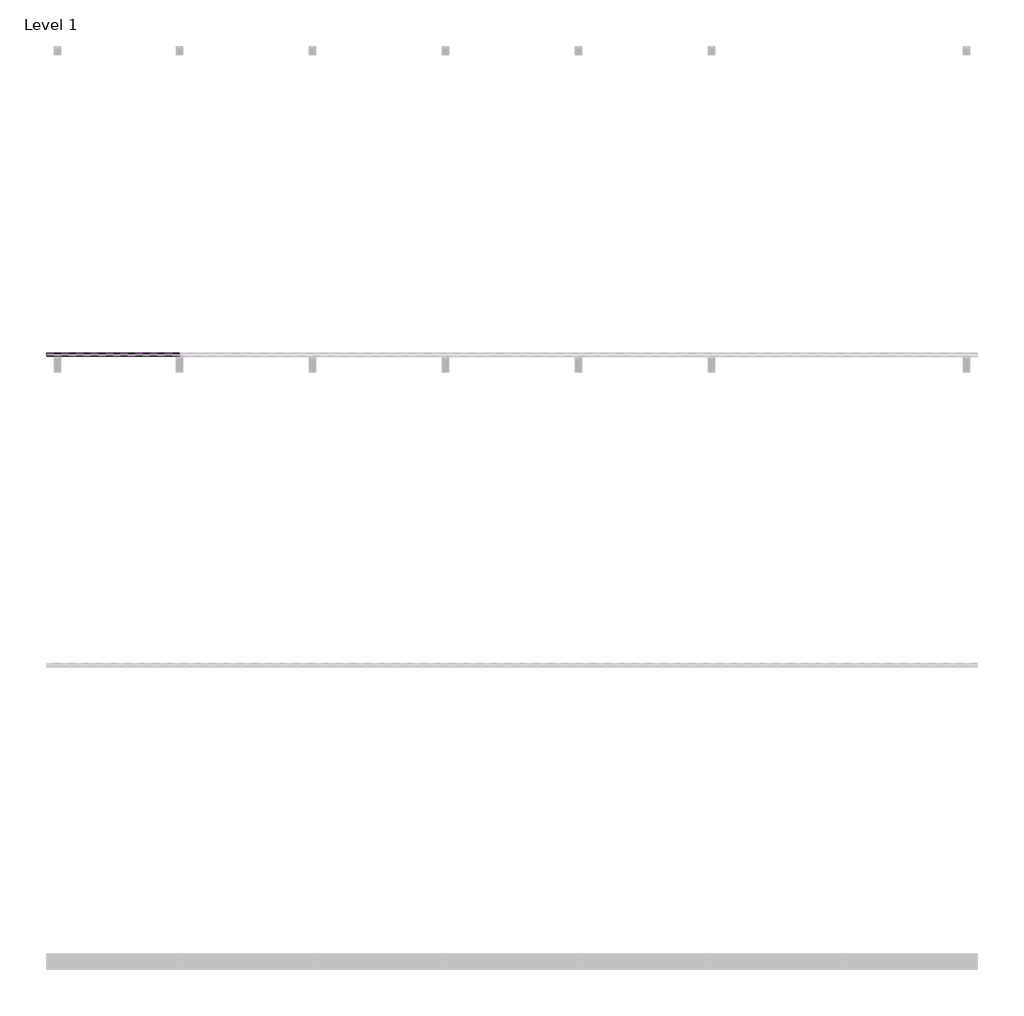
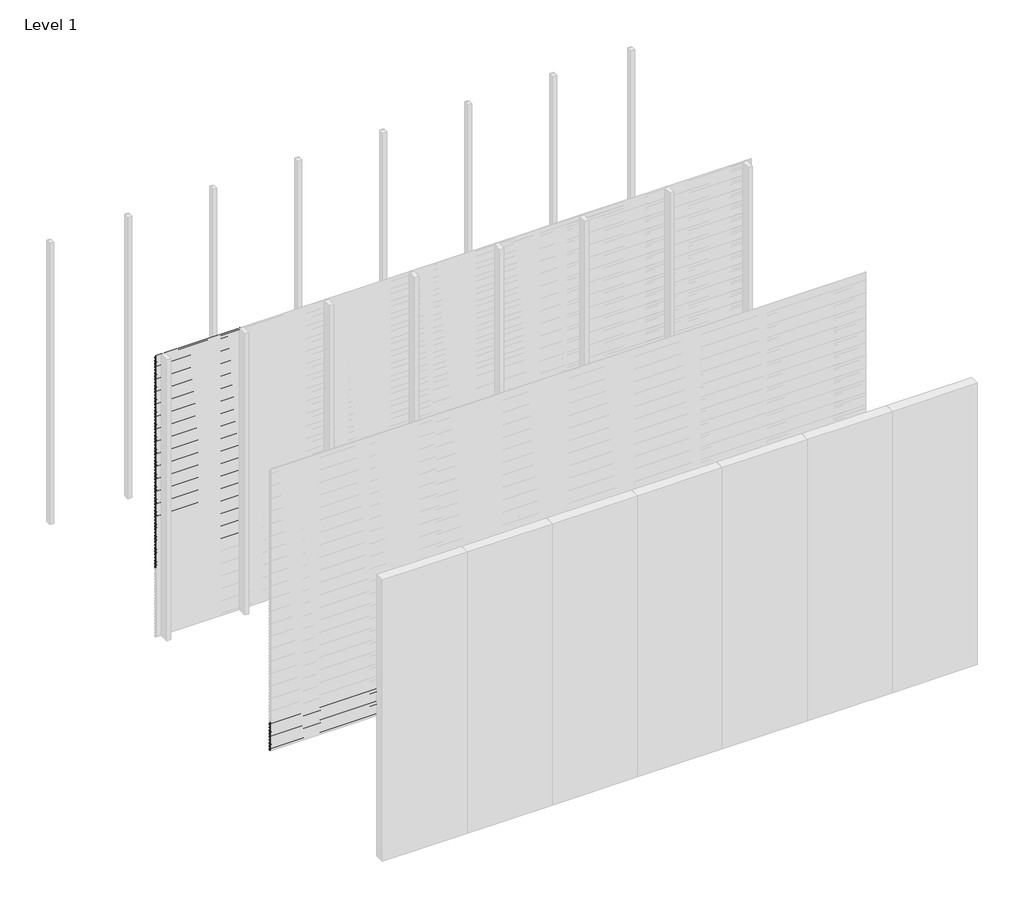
# One storey, part 33 of 96: 77 proxies.
"""IFC4 building model written with IfcOpenShell, lengths in millimetres."""

from ifc_helpers import new_model, si_unit, frame, origin, place, context, project, spatial, polyline, outline, extrude, element, save

model = new_model("IFC4")

# Units and contexts
model_context = context("Model", 3, world=origin())
ifc_project = project(units=[si_unit("LENGTHUNIT", "METRE", prefix="MILLI")], contexts=[model_context])

# Site, building, storey
site = spatial("IfcSite", under=ifc_project)
building = spatial("IfcBuilding", under=site)
storey = spatial("IfcBuildingStorey", under=building, Name="Level 1", Elevation=0.0)

# Proxies
placement = place(None, origin())
element("IfcBuildingElementProxy", 1, Name="Wall Sweeps", at=placement, inside=storey, context=model_context, shape_type="SweptSolid", body=[
    extrude(outline(polyline([(-35977.6, 2971.7655033), (-35977.6, 2957.4779188), (-35982.4114965, 2954.7), (-35982.4114965, 2955.9701706), (-35978.85, 2958.0264016), (-35978.85, 2971.0437382), (-35998.0, 2982.1000799), (-35998.0, 2997.0), (-35996.75, 2997.0), (-35996.75, 2982.8217609), (-35977.6, 2971.7655033)])), frame((0.0, 0.0, 0.0), z_axis=(1.0, 0.0, 0.0), x_axis=(0.0, 1.0, 0.0)), (0.0, 0.0, 1.0), 857.1428571),
])
element("IfcBuildingElementProxy", 2, Name="Wall Sweeps", at=placement, inside=storey, context=model_context, shape_type="SweptSolid", body=[
    extrude(outline(polyline([(-35977.6, 2938.4655033), (-35977.6, 2924.1779188), (-35982.4114965, 2921.4), (-35982.4114965, 2922.6701706), (-35978.85, 2924.7264016), (-35978.85, 2937.7437382), (-35998.0, 2948.8000799), (-35998.0, 2963.7), (-35996.75, 2963.7), (-35996.75, 2949.5217609), (-35977.6, 2938.4655033)])), frame((0.0, 0.0, 0.0), z_axis=(1.0, 0.0, 0.0), x_axis=(0.0, 1.0, 0.0)), (0.0, 0.0, 1.0), 857.1428571),
])
element("IfcBuildingElementProxy", 3, Name="Wall Sweeps", at=placement, inside=storey, context=model_context, shape_type="SweptSolid", body=[
    extrude(outline(polyline([(-35977.6, 2905.1655033), (-35977.6, 2890.8779188), (-35982.4114965, 2888.1), (-35982.4114965, 2889.3701706), (-35978.85, 2891.4264016), (-35978.85, 2904.4437382), (-35998.0, 2915.5000799), (-35998.0, 2930.4), (-35996.75, 2930.4), (-35996.75, 2916.2217609), (-35977.6, 2905.1655033)])), frame((0.0, 0.0, 0.0), z_axis=(1.0, 0.0, 0.0), x_axis=(0.0, 1.0, 0.0)), (0.0, 0.0, 1.0), 857.1428571),
])
element("IfcBuildingElementProxy", 4, Name="Wall Sweeps", at=placement, inside=storey, context=model_context, shape_type="SweptSolid", body=[
    extrude(outline(polyline([(-35977.6, 2871.8655033), (-35977.6, 2857.5779188), (-35982.4114965, 2854.8), (-35982.4114965, 2856.0701706), (-35978.85, 2858.1264016), (-35978.85, 2871.1437382), (-35998.0, 2882.2000799), (-35998.0, 2897.1), (-35996.75, 2897.1), (-35996.75, 2882.9217609), (-35977.6, 2871.8655033)])), frame((0.0, 0.0, 0.0), z_axis=(1.0, 0.0, 0.0), x_axis=(0.0, 1.0, 0.0)), (0.0, 0.0, 1.0), 857.1428571),
])
element("IfcBuildingElementProxy", 5, Name="Wall Sweeps", at=placement, inside=storey, context=model_context, shape_type="SweptSolid", body=[
    extrude(outline(polyline([(-35977.6, 2838.5655033), (-35977.6, 2824.2779188), (-35982.4114965, 2821.5), (-35982.4114965, 2822.7701706), (-35978.85, 2824.8264016), (-35978.85, 2837.8437382), (-35998.0, 2848.9000799), (-35998.0, 2863.8), (-35996.75, 2863.8), (-35996.75, 2849.6217609), (-35977.6, 2838.5655033)])), frame((0.0, 0.0, 0.0), z_axis=(1.0, 0.0, 0.0), x_axis=(0.0, 1.0, 0.0)), (0.0, 0.0, 1.0), 857.1428571),
])
element("IfcBuildingElementProxy", 6, Name="Wall Sweeps", at=placement, inside=storey, context=model_context, shape_type="SweptSolid", body=[
    extrude(outline(polyline([(-35977.6, 2805.2655033), (-35977.6, 2790.9779188), (-35982.4114965, 2788.2), (-35982.4114965, 2789.4701706), (-35978.85, 2791.5264016), (-35978.85, 2804.5437382), (-35998.0, 2815.6000799), (-35998.0, 2830.5), (-35996.75, 2830.5), (-35996.75, 2816.3217609), (-35977.6, 2805.2655033)])), frame((0.0, 0.0, 0.0), z_axis=(1.0, 0.0, 0.0), x_axis=(0.0, 1.0, 0.0)), (0.0, 0.0, 1.0), 857.1428571),
])
element("IfcBuildingElementProxy", 7, Name="Wall Sweeps", at=placement, inside=storey, context=model_context, shape_type="SweptSolid", body=[
    extrude(outline(polyline([(-35977.6, 2771.9655033), (-35977.6, 2757.6779188), (-35982.4114965, 2754.9), (-35982.4114965, 2756.1701706), (-35978.85, 2758.2264016), (-35978.85, 2771.2437382), (-35998.0, 2782.3000799), (-35998.0, 2797.2), (-35996.75, 2797.2), (-35996.75, 2783.0217609), (-35977.6, 2771.9655033)])), frame((0.0, 0.0, 0.0), z_axis=(1.0, 0.0, 0.0), x_axis=(0.0, 1.0, 0.0)), (0.0, 0.0, 1.0), 857.1428571),
])
element("IfcBuildingElementProxy", 8, Name="Wall Sweeps", at=placement, inside=storey, context=model_context, shape_type="SweptSolid", body=[
    extrude(outline(polyline([(-35977.6, 2738.6655033), (-35977.6, 2724.3779188), (-35982.4114965, 2721.6), (-35982.4114965, 2722.8701706), (-35978.85, 2724.9264016), (-35978.85, 2737.9437382), (-35998.0, 2749.0000799), (-35998.0, 2763.9), (-35996.75, 2763.9), (-35996.75, 2749.7217609), (-35977.6, 2738.6655033)])), frame((0.0, 0.0, 0.0), z_axis=(1.0, 0.0, 0.0), x_axis=(0.0, 1.0, 0.0)), (0.0, 0.0, 1.0), 857.1428571),
])
element("IfcBuildingElementProxy", 9, Name="Wall Sweeps", at=placement, inside=storey, context=model_context, shape_type="SweptSolid", body=[
    extrude(outline(polyline([(-35977.6, 2705.3655033), (-35977.6, 2691.0779188), (-35982.4114965, 2688.3), (-35982.4114965, 2689.5701706), (-35978.85, 2691.6264016), (-35978.85, 2704.6437382), (-35998.0, 2715.7000799), (-35998.0, 2730.6), (-35996.75, 2730.6), (-35996.75, 2716.4217609), (-35977.6, 2705.3655033)])), frame((0.0, 0.0, 0.0), z_axis=(1.0, 0.0, 0.0), x_axis=(0.0, 1.0, 0.0)), (0.0, 0.0, 1.0), 857.1428571),
])
element("IfcBuildingElementProxy", 10, Name="Wall Sweeps", at=placement, inside=storey, context=model_context, shape_type="SweptSolid", body=[
    extrude(outline(polyline([(-35977.6, 2672.0655033), (-35977.6, 2657.7779188), (-35982.4114965, 2655.0), (-35982.4114965, 2656.2701706), (-35978.85, 2658.3264016), (-35978.85, 2671.3437382), (-35998.0, 2682.4000799), (-35998.0, 2697.3), (-35996.75, 2697.3), (-35996.75, 2683.1217609), (-35977.6, 2672.0655033)])), frame((0.0, 0.0, 0.0), z_axis=(1.0, 0.0, 0.0), x_axis=(0.0, 1.0, 0.0)), (0.0, 0.0, 1.0), 857.1428571),
])
element("IfcBuildingElementProxy", 11, Name="Wall Sweeps", at=placement, inside=storey, context=model_context, shape_type="SweptSolid", body=[
    extrude(outline(polyline([(-35977.6, 2638.7655033), (-35977.6, 2624.4779188), (-35982.4114965, 2621.7), (-35982.4114965, 2622.9701706), (-35978.85, 2625.0264016), (-35978.85, 2638.0437382), (-35998.0, 2649.1000799), (-35998.0, 2664.0), (-35996.75, 2664.0), (-35996.75, 2649.8217609), (-35977.6, 2638.7655033)])), frame((0.0, 0.0, 0.0), z_axis=(1.0, 0.0, 0.0), x_axis=(0.0, 1.0, 0.0)), (0.0, 0.0, 1.0), 857.1428571),
])
element("IfcBuildingElementProxy", 12, Name="Wall Sweeps", at=placement, inside=storey, context=model_context, shape_type="SweptSolid", body=[
    extrude(outline(polyline([(-35977.6, 2605.4655033), (-35977.6, 2591.1779188), (-35982.4114965, 2588.4), (-35982.4114965, 2589.6701706), (-35978.85, 2591.7264016), (-35978.85, 2604.7437382), (-35998.0, 2615.8000799), (-35998.0, 2630.7), (-35996.75, 2630.7), (-35996.75, 2616.5217609), (-35977.6, 2605.4655033)])), frame((0.0, 0.0, 0.0), z_axis=(1.0, 0.0, 0.0), x_axis=(0.0, 1.0, 0.0)), (0.0, 0.0, 1.0), 857.1428571),
])
element("IfcBuildingElementProxy", 13, Name="Wall Sweeps", at=placement, inside=storey, context=model_context, shape_type="SweptSolid", body=[
    extrude(outline(polyline([(-35977.6, 2572.1655033), (-35977.6, 2557.8779188), (-35982.4114965, 2555.1), (-35982.4114965, 2556.3701706), (-35978.85, 2558.4264016), (-35978.85, 2571.4437382), (-35998.0, 2582.5000799), (-35998.0, 2597.4), (-35996.75, 2597.4), (-35996.75, 2583.2217609), (-35977.6, 2572.1655033)])), frame((0.0, 0.0, 0.0), z_axis=(1.0, 0.0, 0.0), x_axis=(0.0, 1.0, 0.0)), (0.0, 0.0, 1.0), 857.1428571),
])
element("IfcBuildingElementProxy", 14, Name="Wall Sweeps", at=placement, inside=storey, context=model_context, shape_type="SweptSolid", body=[
    extrude(outline(polyline([(-35977.6, 2538.8655033), (-35977.6, 2524.5779188), (-35982.4114965, 2521.8), (-35982.4114965, 2523.0701706), (-35978.85, 2525.1264016), (-35978.85, 2538.1437382), (-35998.0, 2549.2000799), (-35998.0, 2564.1), (-35996.75, 2564.1), (-35996.75, 2549.9217609), (-35977.6, 2538.8655033)])), frame((0.0, 0.0, 0.0), z_axis=(1.0, 0.0, 0.0), x_axis=(0.0, 1.0, 0.0)), (0.0, 0.0, 1.0), 857.1428571),
])
element("IfcBuildingElementProxy", 15, Name="Wall Sweeps", at=placement, inside=storey, context=model_context, shape_type="SweptSolid", body=[
    extrude(outline(polyline([(-35977.6, 2505.5655033), (-35977.6, 2491.2779188), (-35982.4114965, 2488.5), (-35982.4114965, 2489.7701706), (-35978.85, 2491.8264016), (-35978.85, 2504.8437382), (-35998.0, 2515.9000799), (-35998.0, 2530.8), (-35996.75, 2530.8), (-35996.75, 2516.6217609), (-35977.6, 2505.5655033)])), frame((0.0, 0.0, 0.0), z_axis=(1.0, 0.0, 0.0), x_axis=(0.0, 1.0, 0.0)), (0.0, 0.0, 1.0), 857.1428571),
])
element("IfcBuildingElementProxy", 16, Name="Wall Sweeps", at=placement, inside=storey, context=model_context, shape_type="SweptSolid", body=[
    extrude(outline(polyline([(-35977.6, 2472.2655033), (-35977.6, 2457.9779188), (-35982.4114965, 2455.2), (-35982.4114965, 2456.4701706), (-35978.85, 2458.5264016), (-35978.85, 2471.5437382), (-35998.0, 2482.6000799), (-35998.0, 2497.5), (-35996.75, 2497.5), (-35996.75, 2483.3217609), (-35977.6, 2472.2655033)])), frame((0.0, 0.0, 0.0), z_axis=(1.0, 0.0, 0.0), x_axis=(0.0, 1.0, 0.0)), (0.0, 0.0, 1.0), 857.1428571),
])
element("IfcBuildingElementProxy", 17, Name="Wall Sweeps", at=placement, inside=storey, context=model_context, shape_type="SweptSolid", body=[
    extrude(outline(polyline([(-35977.6, 2438.9655033), (-35977.6, 2424.6779188), (-35982.4114965, 2421.9), (-35982.4114965, 2423.1701706), (-35978.85, 2425.2264016), (-35978.85, 2438.2437382), (-35998.0, 2449.3000799), (-35998.0, 2464.2), (-35996.75, 2464.2), (-35996.75, 2450.0217609), (-35977.6, 2438.9655033)])), frame((0.0, 0.0, 0.0), z_axis=(1.0, 0.0, 0.0), x_axis=(0.0, 1.0, 0.0)), (0.0, 0.0, 1.0), 857.1428571),
])
element("IfcBuildingElementProxy", 18, Name="Wall Sweeps", at=placement, inside=storey, context=model_context, shape_type="SweptSolid", body=[
    extrude(outline(polyline([(-35977.6, 2405.6655033), (-35977.6, 2391.3779188), (-35982.4114965, 2388.6), (-35982.4114965, 2389.8701706), (-35978.85, 2391.9264016), (-35978.85, 2404.9437382), (-35998.0, 2416.0000799), (-35998.0, 2430.9), (-35996.75, 2430.9), (-35996.75, 2416.7217609), (-35977.6, 2405.6655033)])), frame((0.0, 0.0, 0.0), z_axis=(1.0, 0.0, 0.0), x_axis=(0.0, 1.0, 0.0)), (0.0, 0.0, 1.0), 857.1428571),
])
element("IfcBuildingElementProxy", 19, Name="Wall Sweeps", at=placement, inside=storey, context=model_context, shape_type="SweptSolid", body=[
    extrude(outline(polyline([(-35977.6, 2372.3655033), (-35977.6, 2358.0779188), (-35982.4114965, 2355.3), (-35982.4114965, 2356.5701706), (-35978.85, 2358.6264016), (-35978.85, 2371.6437382), (-35998.0, 2382.7000799), (-35998.0, 2397.6), (-35996.75, 2397.6), (-35996.75, 2383.4217609), (-35977.6, 2372.3655033)])), frame((0.0, 0.0, 0.0), z_axis=(1.0, 0.0, 0.0), x_axis=(0.0, 1.0, 0.0)), (0.0, 0.0, 1.0), 857.1428571),
])
element("IfcBuildingElementProxy", 20, Name="Wall Sweeps", at=placement, inside=storey, context=model_context, shape_type="SweptSolid", body=[
    extrude(outline(polyline([(-35977.6, 2339.0655033), (-35977.6, 2324.7779188), (-35982.4114965, 2322.0), (-35982.4114965, 2323.2701706), (-35978.85, 2325.3264016), (-35978.85, 2338.3437382), (-35998.0, 2349.4000799), (-35998.0, 2364.3), (-35996.75, 2364.3), (-35996.75, 2350.1217609), (-35977.6, 2339.0655033)])), frame((0.0, 0.0, 0.0), z_axis=(1.0, 0.0, 0.0), x_axis=(0.0, 1.0, 0.0)), (0.0, 0.0, 1.0), 857.1428571),
])
element("IfcBuildingElementProxy", 21, Name="Wall Sweeps", at=placement, inside=storey, context=model_context, shape_type="SweptSolid", body=[
    extrude(outline(polyline([(-35977.6, 2305.7655033), (-35977.6, 2291.4779188), (-35982.4114965, 2288.7), (-35982.4114965, 2289.9701706), (-35978.85, 2292.0264016), (-35978.85, 2305.0437382), (-35998.0, 2316.1000799), (-35998.0, 2331.0), (-35996.75, 2331.0), (-35996.75, 2316.8217609), (-35977.6, 2305.7655033)])), frame((0.0, 0.0, 0.0), z_axis=(1.0, 0.0, 0.0), x_axis=(0.0, 1.0, 0.0)), (0.0, 0.0, 1.0), 857.1428571),
])
element("IfcBuildingElementProxy", 22, Name="Wall Sweeps", at=placement, inside=storey, context=model_context, shape_type="SweptSolid", body=[
    extrude(outline(polyline([(-35977.6, 2272.4655033), (-35977.6, 2258.1779188), (-35982.4114965, 2255.4), (-35982.4114965, 2256.6701706), (-35978.85, 2258.7264016), (-35978.85, 2271.7437382), (-35998.0, 2282.8000799), (-35998.0, 2297.7), (-35996.75, 2297.7), (-35996.75, 2283.5217609), (-35977.6, 2272.4655033)])), frame((0.0, 0.0, 0.0), z_axis=(1.0, 0.0, 0.0), x_axis=(0.0, 1.0, 0.0)), (0.0, 0.0, 1.0), 857.1428571),
])
element("IfcBuildingElementProxy", 23, Name="Wall Sweeps", at=placement, inside=storey, context=model_context, shape_type="SweptSolid", body=[
    extrude(outline(polyline([(-35977.6, 2239.1655033), (-35977.6, 2224.8779188), (-35982.4114965, 2222.1), (-35982.4114965, 2223.3701706), (-35978.85, 2225.4264016), (-35978.85, 2238.4437382), (-35998.0, 2249.5000799), (-35998.0, 2264.4), (-35996.75, 2264.4), (-35996.75, 2250.2217609), (-35977.6, 2239.1655033)])), frame((0.0, 0.0, 0.0), z_axis=(1.0, 0.0, 0.0), x_axis=(0.0, 1.0, 0.0)), (0.0, 0.0, 1.0), 857.1428571),
])
element("IfcBuildingElementProxy", 24, Name="Wall Sweeps", at=placement, inside=storey, context=model_context, shape_type="SweptSolid", body=[
    extrude(outline(polyline([(-35977.6, 2205.8655033), (-35977.6, 2191.5779188), (-35982.4114965, 2188.8), (-35982.4114965, 2190.0701706), (-35978.85, 2192.1264016), (-35978.85, 2205.1437382), (-35998.0, 2216.2000799), (-35998.0, 2231.1), (-35996.75, 2231.1), (-35996.75, 2216.9217609), (-35977.6, 2205.8655033)])), frame((0.0, 0.0, 0.0), z_axis=(1.0, 0.0, 0.0), x_axis=(0.0, 1.0, 0.0)), (0.0, 0.0, 1.0), 857.1428571),
])
element("IfcBuildingElementProxy", 25, Name="Wall Sweeps", at=placement, inside=storey, context=model_context, shape_type="SweptSolid", body=[
    extrude(outline(polyline([(-35977.6, 2172.5655033), (-35977.6, 2158.2779188), (-35982.4114965, 2155.5), (-35982.4114965, 2156.7701706), (-35978.85, 2158.8264016), (-35978.85, 2171.8437382), (-35998.0, 2182.9000799), (-35998.0, 2197.8), (-35996.75, 2197.8), (-35996.75, 2183.6217609), (-35977.6, 2172.5655033)])), frame((0.0, 0.0, 0.0), z_axis=(1.0, 0.0, 0.0), x_axis=(0.0, 1.0, 0.0)), (0.0, 0.0, 1.0), 857.1428571),
])
element("IfcBuildingElementProxy", 26, Name="Wall Sweeps", at=placement, inside=storey, context=model_context, shape_type="SweptSolid", body=[
    extrude(outline(polyline([(-35977.6, 2139.2655033), (-35977.6, 2124.9779188), (-35982.4114965, 2122.2), (-35982.4114965, 2123.4701706), (-35978.85, 2125.5264016), (-35978.85, 2138.5437382), (-35998.0, 2149.6000799), (-35998.0, 2164.5), (-35996.75, 2164.5), (-35996.75, 2150.3217609), (-35977.6, 2139.2655033)])), frame((0.0, 0.0, 0.0), z_axis=(1.0, 0.0, 0.0), x_axis=(0.0, 1.0, 0.0)), (0.0, 0.0, 1.0), 857.1428571),
])
element("IfcBuildingElementProxy", 27, Name="Wall Sweeps", at=placement, inside=storey, context=model_context, shape_type="SweptSolid", body=[
    extrude(outline(polyline([(-35977.6, 2105.9655033), (-35977.6, 2091.6779188), (-35982.4114965, 2088.9), (-35982.4114965, 2090.1701706), (-35978.85, 2092.2264016), (-35978.85, 2105.2437382), (-35998.0, 2116.3000799), (-35998.0, 2131.2), (-35996.75, 2131.2), (-35996.75, 2117.0217609), (-35977.6, 2105.9655033)])), frame((0.0, 0.0, 0.0), z_axis=(1.0, 0.0, 0.0), x_axis=(0.0, 1.0, 0.0)), (0.0, 0.0, 1.0), 857.1428571),
])
element("IfcBuildingElementProxy", 28, Name="Wall Sweeps", at=placement, inside=storey, context=model_context, shape_type="SweptSolid", body=[
    extrude(outline(polyline([(-35977.6, 2072.6655033), (-35977.6, 2058.3779188), (-35982.4114965, 2055.6), (-35982.4114965, 2056.8701706), (-35978.85, 2058.9264016), (-35978.85, 2071.9437382), (-35998.0, 2083.0000799), (-35998.0, 2097.9), (-35996.75, 2097.9), (-35996.75, 2083.7217609), (-35977.6, 2072.6655033)])), frame((0.0, 0.0, 0.0), z_axis=(1.0, 0.0, 0.0), x_axis=(0.0, 1.0, 0.0)), (0.0, 0.0, 1.0), 857.1428571),
])
element("IfcBuildingElementProxy", 29, Name="Wall Sweeps", at=placement, inside=storey, context=model_context, shape_type="SweptSolid", body=[
    extrude(outline(polyline([(-35977.6, 2039.3655033), (-35977.6, 2025.0779188), (-35982.4114965, 2022.3), (-35982.4114965, 2023.5701706), (-35978.85, 2025.6264016), (-35978.85, 2038.6437382), (-35998.0, 2049.7000799), (-35998.0, 2064.6), (-35996.75, 2064.6), (-35996.75, 2050.4217609), (-35977.6, 2039.3655033)])), frame((0.0, 0.0, 0.0), z_axis=(1.0, 0.0, 0.0), x_axis=(0.0, 1.0, 0.0)), (0.0, 0.0, 1.0), 857.1428571),
])
element("IfcBuildingElementProxy", 30, Name="Wall Sweeps", at=placement, inside=storey, context=model_context, shape_type="SweptSolid", body=[
    extrude(outline(polyline([(-35977.6, 2006.0655033), (-35977.6, 1991.7779188), (-35982.4114965, 1989.0), (-35982.4114965, 1990.2701706), (-35978.85, 1992.3264016), (-35978.85, 2005.3437382), (-35998.0, 2016.4000799), (-35998.0, 2031.3), (-35996.75, 2031.3), (-35996.75, 2017.1217609), (-35977.6, 2006.0655033)])), frame((0.0, 0.0, 0.0), z_axis=(1.0, 0.0, 0.0), x_axis=(0.0, 1.0, 0.0)), (0.0, 0.0, 1.0), 857.1428571),
])
element("IfcBuildingElementProxy", 31, Name="Wall Sweeps", at=placement, inside=storey, context=model_context, shape_type="SweptSolid", body=[
    extrude(outline(polyline([(-35977.6, 1972.7655033), (-35977.6, 1958.4779188), (-35982.4114965, 1955.7), (-35982.4114965, 1956.9701706), (-35978.85, 1959.0264016), (-35978.85, 1972.0437382), (-35998.0, 1983.1000799), (-35998.0, 1998.0), (-35996.75, 1998.0), (-35996.75, 1983.8217609), (-35977.6, 1972.7655033)])), frame((0.0, 0.0, 0.0), z_axis=(1.0, 0.0, 0.0), x_axis=(0.0, 1.0, 0.0)), (0.0, 0.0, 1.0), 857.1428571),
])
element("IfcBuildingElementProxy", 32, Name="Wall Sweeps", at=placement, inside=storey, context=model_context, shape_type="SweptSolid", body=[
    extrude(outline(polyline([(-35977.6, 1939.4655033), (-35977.6, 1925.1779188), (-35982.4114965, 1922.4), (-35982.4114965, 1923.6701706), (-35978.85, 1925.7264016), (-35978.85, 1938.7437382), (-35998.0, 1949.8000799), (-35998.0, 1964.7), (-35996.75, 1964.7), (-35996.75, 1950.5217609), (-35977.6, 1939.4655033)])), frame((0.0, 0.0, 0.0), z_axis=(1.0, 0.0, 0.0), x_axis=(0.0, 1.0, 0.0)), (0.0, 0.0, 1.0), 857.1428571),
])
element("IfcBuildingElementProxy", 33, Name="Wall Sweeps", at=placement, inside=storey, context=model_context, shape_type="SweptSolid", body=[
    extrude(outline(polyline([(-35977.6, 1906.1655033), (-35977.6, 1891.8779188), (-35982.4114965, 1889.1), (-35982.4114965, 1890.3701706), (-35978.85, 1892.4264016), (-35978.85, 1905.4437382), (-35998.0, 1916.5000799), (-35998.0, 1931.4), (-35996.75, 1931.4), (-35996.75, 1917.2217609), (-35977.6, 1906.1655033)])), frame((0.0, 0.0, 0.0), z_axis=(1.0, 0.0, 0.0), x_axis=(0.0, 1.0, 0.0)), (0.0, 0.0, 1.0), 857.1428571),
])
element("IfcBuildingElementProxy", 34, Name="Wall Sweeps", at=placement, inside=storey, context=model_context, shape_type="SweptSolid", body=[
    extrude(outline(polyline([(-35977.6, 1872.8655033), (-35977.6, 1858.5779188), (-35982.4114965, 1855.8), (-35982.4114965, 1857.0701706), (-35978.85, 1859.1264016), (-35978.85, 1872.1437382), (-35998.0, 1883.2000799), (-35998.0, 1898.1), (-35996.75, 1898.1), (-35996.75, 1883.9217609), (-35977.6, 1872.8655033)])), frame((0.0, 0.0, 0.0), z_axis=(1.0, 0.0, 0.0), x_axis=(0.0, 1.0, 0.0)), (0.0, 0.0, 1.0), 857.1428571),
])
element("IfcBuildingElementProxy", 35, Name="Wall Sweeps", at=placement, inside=storey, context=model_context, shape_type="SweptSolid", body=[
    extrude(outline(polyline([(-35977.6, 1839.5655033), (-35977.6, 1825.2779188), (-35982.4114965, 1822.5), (-35982.4114965, 1823.7701706), (-35978.85, 1825.8264016), (-35978.85, 1838.8437382), (-35998.0, 1849.9000799), (-35998.0, 1864.8), (-35996.75, 1864.8), (-35996.75, 1850.6217609), (-35977.6, 1839.5655033)])), frame((0.0, 0.0, 0.0), z_axis=(1.0, 0.0, 0.0), x_axis=(0.0, 1.0, 0.0)), (0.0, 0.0, 1.0), 857.1428571),
])
element("IfcBuildingElementProxy", 36, Name="Wall Sweeps", at=placement, inside=storey, context=model_context, shape_type="SweptSolid", body=[
    extrude(outline(polyline([(-35977.6, 1806.2655033), (-35977.6, 1791.9779188), (-35982.4114965, 1789.2), (-35982.4114965, 1790.4701706), (-35978.85, 1792.5264016), (-35978.85, 1805.5437382), (-35998.0, 1816.6000799), (-35998.0, 1831.5), (-35996.75, 1831.5), (-35996.75, 1817.3217609), (-35977.6, 1806.2655033)])), frame((0.0, 0.0, 0.0), z_axis=(1.0, 0.0, 0.0), x_axis=(0.0, 1.0, 0.0)), (0.0, 0.0, 1.0), 857.1428571),
])
element("IfcBuildingElementProxy", 37, Name="Wall Sweeps", at=placement, inside=storey, context=model_context, shape_type="SweptSolid", body=[
    extrude(outline(polyline([(-35977.6, 1772.9655033), (-35977.6, 1758.6779188), (-35982.4114965, 1755.9), (-35982.4114965, 1757.1701706), (-35978.85, 1759.2264016), (-35978.85, 1772.2437382), (-35998.0, 1783.3000799), (-35998.0, 1798.2), (-35996.75, 1798.2), (-35996.75, 1784.0217609), (-35977.6, 1772.9655033)])), frame((0.0, 0.0, 0.0), z_axis=(1.0, 0.0, 0.0), x_axis=(0.0, 1.0, 0.0)), (0.0, 0.0, 1.0), 857.1428571),
])
element("IfcBuildingElementProxy", 38, Name="Wall Sweeps", at=placement, inside=storey, context=model_context, shape_type="SweptSolid", body=[
    extrude(outline(polyline([(-35977.6, 1739.6655033), (-35977.6, 1725.3779188), (-35982.4114965, 1722.6), (-35982.4114965, 1723.8701706), (-35978.85, 1725.9264016), (-35978.85, 1738.9437382), (-35998.0, 1750.0000799), (-35998.0, 1764.9), (-35996.75, 1764.9), (-35996.75, 1750.7217609), (-35977.6, 1739.6655033)])), frame((0.0, 0.0, 0.0), z_axis=(1.0, 0.0, 0.0), x_axis=(0.0, 1.0, 0.0)), (0.0, 0.0, 1.0), 857.1428571),
])
element("IfcBuildingElementProxy", 39, Name="Wall Sweeps", at=placement, inside=storey, context=model_context, shape_type="SweptSolid", body=[
    extrude(outline(polyline([(-35977.6, 1706.3655033), (-35977.6, 1692.0779188), (-35982.4114965, 1689.3), (-35982.4114965, 1690.5701706), (-35978.85, 1692.6264016), (-35978.85, 1705.6437382), (-35998.0, 1716.7000799), (-35998.0, 1731.6), (-35996.75, 1731.6), (-35996.75, 1717.4217609), (-35977.6, 1706.3655033)])), frame((0.0, 0.0, 0.0), z_axis=(1.0, 0.0, 0.0), x_axis=(0.0, 1.0, 0.0)), (0.0, 0.0, 1.0), 857.1428571),
])
element("IfcBuildingElementProxy", 40, Name="Wall Sweeps", at=placement, inside=storey, context=model_context, shape_type="SweptSolid", body=[
    extrude(outline(polyline([(-35977.6, 1673.0655033), (-35977.6, 1658.7779188), (-35982.4114965, 1656.0), (-35982.4114965, 1657.2701706), (-35978.85, 1659.3264016), (-35978.85, 1672.3437382), (-35998.0, 1683.4000799), (-35998.0, 1698.3), (-35996.75, 1698.3), (-35996.75, 1684.1217609), (-35977.6, 1673.0655033)])), frame((0.0, 0.0, 0.0), z_axis=(1.0, 0.0, 0.0), x_axis=(0.0, 1.0, 0.0)), (0.0, 0.0, 1.0), 857.1428571),
])
element("IfcBuildingElementProxy", 41, Name="Wall Sweeps", at=placement, inside=storey, context=model_context, shape_type="SweptSolid", body=[
    extrude(outline(polyline([(-35977.6, 1639.7655033), (-35977.6, 1625.4779188), (-35982.4114965, 1622.7), (-35982.4114965, 1623.9701706), (-35978.85, 1626.0264016), (-35978.85, 1639.0437382), (-35998.0, 1650.1000799), (-35998.0, 1665.0), (-35996.75, 1665.0), (-35996.75, 1650.8217609), (-35977.6, 1639.7655033)])), frame((0.0, 0.0, 0.0), z_axis=(1.0, 0.0, 0.0), x_axis=(0.0, 1.0, 0.0)), (0.0, 0.0, 1.0), 857.1428571),
])
element("IfcBuildingElementProxy", 42, Name="Wall Sweeps", at=placement, inside=storey, context=model_context, shape_type="SweptSolid", body=[
    extrude(outline(polyline([(-35977.6, 1606.4655033), (-35977.6, 1592.1779188), (-35982.4114965, 1589.4), (-35982.4114965, 1590.6701706), (-35978.85, 1592.7264016), (-35978.85, 1605.7437382), (-35998.0, 1616.8000799), (-35998.0, 1631.7), (-35996.75, 1631.7), (-35996.75, 1617.5217609), (-35977.6, 1606.4655033)])), frame((0.0, 0.0, 0.0), z_axis=(1.0, 0.0, 0.0), x_axis=(0.0, 1.0, 0.0)), (0.0, 0.0, 1.0), 857.1428571),
])
element("IfcBuildingElementProxy", 43, Name="Wall Sweeps", at=placement, inside=storey, context=model_context, shape_type="SweptSolid", body=[
    extrude(outline(polyline([(-35977.6, 1573.1655033), (-35977.6, 1558.8779188), (-35982.4114965, 1556.1), (-35982.4114965, 1557.3701706), (-35978.85, 1559.4264016), (-35978.85, 1572.4437382), (-35998.0, 1583.5000799), (-35998.0, 1598.4), (-35996.75, 1598.4), (-35996.75, 1584.2217609), (-35977.6, 1573.1655033)])), frame((0.0, 0.0, 0.0), z_axis=(1.0, 0.0, 0.0), x_axis=(0.0, 1.0, 0.0)), (0.0, 0.0, 1.0), 857.1428571),
])
element("IfcBuildingElementProxy", 44, Name="Wall Sweeps", at=placement, inside=storey, context=model_context, shape_type="SweptSolid", body=[
    extrude(outline(polyline([(-35977.6, 1539.8655033), (-35977.6, 1525.5779188), (-35982.4114965, 1522.8), (-35982.4114965, 1524.0701706), (-35978.85, 1526.1264016), (-35978.85, 1539.1437382), (-35998.0, 1550.2000799), (-35998.0, 1565.1), (-35996.75, 1565.1), (-35996.75, 1550.9217609), (-35977.6, 1539.8655033)])), frame((0.0, 0.0, 0.0), z_axis=(1.0, 0.0, 0.0), x_axis=(0.0, 1.0, 0.0)), (0.0, 0.0, 1.0), 857.1428571),
])
element("IfcBuildingElementProxy", 45, Name="Wall Sweeps", at=placement, inside=storey, context=model_context, shape_type="SweptSolid", body=[
    extrude(outline(polyline([(-35977.6, 1506.5655033), (-35977.6, 1492.2779188), (-35982.4114965, 1489.5), (-35982.4114965, 1490.7701706), (-35978.85, 1492.8264016), (-35978.85, 1505.8437382), (-35998.0, 1516.9000799), (-35998.0, 1531.8), (-35996.75, 1531.8), (-35996.75, 1517.6217609), (-35977.6, 1506.5655033)])), frame((0.0, 0.0, 0.0), z_axis=(1.0, 0.0, 0.0), x_axis=(0.0, 1.0, 0.0)), (0.0, 0.0, 1.0), 857.1428571),
])
element("IfcBuildingElementProxy", 46, Name="Wall Sweeps", at=placement, inside=storey, context=model_context, shape_type="SweptSolid", body=[
    extrude(outline(polyline([(-35977.6, 1473.2655033), (-35977.6, 1458.9779188), (-35982.4114965, 1456.2), (-35982.4114965, 1457.4701706), (-35978.85, 1459.5264016), (-35978.85, 1472.5437382), (-35998.0, 1483.6000799), (-35998.0, 1498.5), (-35996.75, 1498.5), (-35996.75, 1484.3217609), (-35977.6, 1473.2655033)])), frame((0.0, 0.0, 0.0), z_axis=(1.0, 0.0, 0.0), x_axis=(0.0, 1.0, 0.0)), (0.0, 0.0, 1.0), 857.1428571),
])
element("IfcBuildingElementProxy", 47, Name="Wall Sweeps", at=placement, inside=storey, context=model_context, shape_type="SweptSolid", body=[
    extrude(outline(polyline([(-35977.6, 1439.9655033), (-35977.6, 1425.6779188), (-35982.4114965, 1422.9), (-35982.4114965, 1424.1701706), (-35978.85, 1426.2264016), (-35978.85, 1439.2437382), (-35998.0, 1450.3000799), (-35998.0, 1465.2), (-35996.75, 1465.2), (-35996.75, 1451.0217609), (-35977.6, 1439.9655033)])), frame((0.0, 0.0, 0.0), z_axis=(1.0, 0.0, 0.0), x_axis=(0.0, 1.0, 0.0)), (0.0, 0.0, 1.0), 857.1428571),
])
element("IfcBuildingElementProxy", 48, Name="Wall Sweeps", at=placement, inside=storey, context=model_context, shape_type="SweptSolid", body=[
    extrude(outline(polyline([(-35977.6, 1406.6655033), (-35977.6, 1392.3779188), (-35982.4114965, 1389.6), (-35982.4114965, 1390.8701706), (-35978.85, 1392.9264016), (-35978.85, 1405.9437382), (-35998.0, 1417.0000799), (-35998.0, 1431.9), (-35996.75, 1431.9), (-35996.75, 1417.7217609), (-35977.6, 1406.6655033)])), frame((0.0, 0.0, 0.0), z_axis=(1.0, 0.0, 0.0), x_axis=(0.0, 1.0, 0.0)), (0.0, 0.0, 1.0), 857.1428571),
])
element("IfcBuildingElementProxy", 49, Name="Wall Sweeps", at=placement, inside=storey, context=model_context, shape_type="SweptSolid", body=[
    extrude(outline(polyline([(-35977.6, 1373.3655033), (-35977.6, 1359.0779188), (-35982.4114965, 1356.3), (-35982.4114965, 1357.5701706), (-35978.85, 1359.6264016), (-35978.85, 1372.6437382), (-35998.0, 1383.7000799), (-35998.0, 1398.6), (-35996.75, 1398.6), (-35996.75, 1384.4217609), (-35977.6, 1373.3655033)])), frame((0.0, 0.0, 0.0), z_axis=(1.0, 0.0, 0.0), x_axis=(0.0, 1.0, 0.0)), (0.0, 0.0, 1.0), 857.1428571),
])
element("IfcBuildingElementProxy", 50, Name="Wall Sweeps", at=placement, inside=storey, context=model_context, shape_type="SweptSolid", body=[
    extrude(outline(polyline([(-35977.6, 1340.0655033), (-35977.6, 1325.7779188), (-35982.4114965, 1323.0), (-35982.4114965, 1324.2701706), (-35978.85, 1326.3264016), (-35978.85, 1339.3437382), (-35998.0, 1350.4000799), (-35998.0, 1365.3), (-35996.75, 1365.3), (-35996.75, 1351.1217609), (-35977.6, 1340.0655033)])), frame((0.0, 0.0, 0.0), z_axis=(1.0, 0.0, 0.0), x_axis=(0.0, 1.0, 0.0)), (0.0, 0.0, 1.0), 857.1428571),
])
element("IfcBuildingElementProxy", 51, Name="Wall Sweeps", at=placement, inside=storey, context=model_context, shape_type="SweptSolid", body=[
    extrude(outline(polyline([(-35977.6, 1306.7655033), (-35977.6, 1292.4779188), (-35982.4114965, 1289.7), (-35982.4114965, 1290.9701706), (-35978.85, 1293.0264016), (-35978.85, 1306.0437382), (-35998.0, 1317.1000799), (-35998.0, 1332.0), (-35996.75, 1332.0), (-35996.75, 1317.8217609), (-35977.6, 1306.7655033)])), frame((0.0, 0.0, 0.0), z_axis=(1.0, 0.0, 0.0), x_axis=(0.0, 1.0, 0.0)), (0.0, 0.0, 1.0), 857.1428571),
])
element("IfcBuildingElementProxy", 52, Name="Wall Sweeps", at=placement, inside=storey, context=model_context, shape_type="SweptSolid", body=[
    extrude(outline(polyline([(-35977.6, 1273.4655033), (-35977.6, 1259.1779188), (-35982.4114965, 1256.4), (-35982.4114965, 1257.6701706), (-35978.85, 1259.7264016), (-35978.85, 1272.7437382), (-35998.0, 1283.8000799), (-35998.0, 1298.7), (-35996.75, 1298.7), (-35996.75, 1284.5217609), (-35977.6, 1273.4655033)])), frame((0.0, 0.0, 0.0), z_axis=(1.0, 0.0, 0.0), x_axis=(0.0, 1.0, 0.0)), (0.0, 0.0, 1.0), 857.1428571),
])
element("IfcBuildingElementProxy", 53, Name="Wall Sweeps", at=placement, inside=storey, context=model_context, shape_type="SweptSolid", body=[
    extrude(outline(polyline([(-35977.6, 1240.1655033), (-35977.6, 1225.8779188), (-35982.4114965, 1223.1), (-35982.4114965, 1224.3701706), (-35978.85, 1226.4264016), (-35978.85, 1239.4437382), (-35998.0, 1250.5000799), (-35998.0, 1265.4), (-35996.75, 1265.4), (-35996.75, 1251.2217609), (-35977.6, 1240.1655033)])), frame((0.0, 0.0, 0.0), z_axis=(1.0, 0.0, 0.0), x_axis=(0.0, 1.0, 0.0)), (0.0, 0.0, 1.0), 857.1428571),
])
element("IfcBuildingElementProxy", 54, Name="Wall Sweeps", at=placement, inside=storey, context=model_context, shape_type="SweptSolid", body=[
    extrude(outline(polyline([(-35977.6, 1206.8655033), (-35977.6, 1192.5779188), (-35982.4114965, 1189.8), (-35982.4114965, 1191.0701706), (-35978.85, 1193.1264016), (-35978.85, 1206.1437382), (-35998.0, 1217.2000799), (-35998.0, 1232.1), (-35996.75, 1232.1), (-35996.75, 1217.9217609), (-35977.6, 1206.8655033)])), frame((0.0, 0.0, 0.0), z_axis=(1.0, 0.0, 0.0), x_axis=(0.0, 1.0, 0.0)), (0.0, 0.0, 1.0), 857.1428571),
])
element("IfcBuildingElementProxy", 55, Name="Wall Sweeps", at=placement, inside=storey, context=model_context, shape_type="SweptSolid", body=[
    extrude(outline(polyline([(-35977.6, 1173.5655033), (-35977.6, 1159.2779188), (-35982.4114965, 1156.5), (-35982.4114965, 1157.7701706), (-35978.85, 1159.8264016), (-35978.85, 1172.8437382), (-35998.0, 1183.9000799), (-35998.0, 1198.8), (-35996.75, 1198.8), (-35996.75, 1184.6217609), (-35977.6, 1173.5655033)])), frame((0.0, 0.0, 0.0), z_axis=(1.0, 0.0, 0.0), x_axis=(0.0, 1.0, 0.0)), (0.0, 0.0, 1.0), 857.1428571),
])
element("IfcBuildingElementProxy", 56, Name="Wall Sweeps", at=placement, inside=storey, context=model_context, shape_type="SweptSolid", body=[
    extrude(outline(polyline([(-35977.6, 1140.2655033), (-35977.6, 1125.9779188), (-35982.4114965, 1123.2), (-35982.4114965, 1124.4701706), (-35978.85, 1126.5264016), (-35978.85, 1139.5437382), (-35998.0, 1150.6000799), (-35998.0, 1165.5), (-35996.75, 1165.5), (-35996.75, 1151.3217609), (-35977.6, 1140.2655033)])), frame((0.0, 0.0, 0.0), z_axis=(1.0, 0.0, 0.0), x_axis=(0.0, 1.0, 0.0)), (0.0, 0.0, 1.0), 857.1428571),
])
element("IfcBuildingElementProxy", 57, Name="Wall Sweeps", at=placement, inside=storey, context=model_context, shape_type="SweptSolid", body=[
    extrude(outline(polyline([(-35977.6, 1106.9655033), (-35977.6, 1092.6779188), (-35982.4114965, 1089.9), (-35982.4114965, 1091.1701706), (-35978.85, 1093.2264016), (-35978.85, 1106.2437382), (-35998.0, 1117.3000799), (-35998.0, 1132.2), (-35996.75, 1132.2), (-35996.75, 1118.0217609), (-35977.6, 1106.9655033)])), frame((0.0, 0.0, 0.0), z_axis=(1.0, 0.0, 0.0), x_axis=(0.0, 1.0, 0.0)), (0.0, 0.0, 1.0), 857.1428571),
])
element("IfcBuildingElementProxy", 58, Name="Wall Sweeps", at=placement, inside=storey, context=model_context, shape_type="SweptSolid", body=[
    extrude(outline(polyline([(-35977.6, 1073.6655033), (-35977.6, 1059.3779188), (-35982.4114965, 1056.6), (-35982.4114965, 1057.8701706), (-35978.85, 1059.9264016), (-35978.85, 1072.9437382), (-35998.0, 1084.0000799), (-35998.0, 1098.9), (-35996.75, 1098.9), (-35996.75, 1084.7217609), (-35977.6, 1073.6655033)])), frame((0.0, 0.0, 0.0), z_axis=(1.0, 0.0, 0.0), x_axis=(0.0, 1.0, 0.0)), (0.0, 0.0, 1.0), 857.1428571),
])
element("IfcBuildingElementProxy", 59, Name="Wall Sweeps", at=placement, inside=storey, context=model_context, shape_type="SweptSolid", body=[
    extrude(outline(polyline([(-35977.6, 1040.3655033), (-35977.6, 1026.0779188), (-35982.4114965, 1023.3), (-35982.4114965, 1024.5701706), (-35978.85, 1026.6264016), (-35978.85, 1039.6437382), (-35998.0, 1050.7000799), (-35998.0, 1065.6), (-35996.75, 1065.6), (-35996.75, 1051.4217609), (-35977.6, 1040.3655033)])), frame((0.0, 0.0, 0.0), z_axis=(1.0, 0.0, 0.0), x_axis=(0.0, 1.0, 0.0)), (0.0, 0.0, 1.0), 857.1428571),
])
element("IfcBuildingElementProxy", 60, Name="Wall Sweeps", at=placement, inside=storey, context=model_context, shape_type="SweptSolid", body=[
    extrude(outline(polyline([(-35977.6, 1007.0655033), (-35977.6, 992.7779188), (-35982.4114965, 990.0), (-35982.4114965, 991.2701706), (-35978.85, 993.3264016), (-35978.85, 1006.3437382), (-35998.0, 1017.4000799), (-35998.0, 1032.3), (-35996.75, 1032.3), (-35996.75, 1018.1217609), (-35977.6, 1007.0655033)])), frame((0.0, 0.0, 0.0), z_axis=(1.0, 0.0, 0.0), x_axis=(0.0, 1.0, 0.0)), (0.0, 0.0, 1.0), 857.1428571),
])
element("IfcBuildingElementProxy", 61, Name="Wall Sweeps", at=placement, inside=storey, context=model_context, shape_type="SweptSolid", body=[
    extrude(outline(polyline([(-35977.6, 973.7655033), (-35977.6, 959.4779188), (-35982.4114965, 956.7), (-35982.4114965, 957.9701706), (-35978.85, 960.0264016), (-35978.85, 973.0437382), (-35998.0, 984.1000799), (-35998.0, 999.0), (-35996.75, 999.0), (-35996.75, 984.8217609), (-35977.6, 973.7655033)])), frame((0.0, 0.0, 0.0), z_axis=(1.0, 0.0, 0.0), x_axis=(0.0, 1.0, 0.0)), (0.0, 0.0, 1.0), 857.1428571),
])
element("IfcBuildingElementProxy", 62, Name="Wall Sweeps", at=placement, inside=storey, context=model_context, shape_type="SweptSolid", body=[
    extrude(outline(polyline([(-35977.6, 940.4655033), (-35977.6, 926.1779188), (-35982.4114965, 923.4), (-35982.4114965, 924.6701706), (-35978.85, 926.7264016), (-35978.85, 939.7437382), (-35998.0, 950.8000799), (-35998.0, 965.7), (-35996.75, 965.7), (-35996.75, 951.5217609), (-35977.6, 940.4655033)])), frame((0.0, 0.0, 0.0), z_axis=(1.0, 0.0, 0.0), x_axis=(0.0, 1.0, 0.0)), (0.0, 0.0, 1.0), 857.1428571),
])
element("IfcBuildingElementProxy", 63, Name="Wall Sweeps", at=placement, inside=storey, context=model_context, shape_type="SweptSolid", body=[
    extrude(outline(polyline([(-35977.6, 907.1655033), (-35977.6, 892.8779188), (-35982.4114965, 890.1), (-35982.4114965, 891.3701706), (-35978.85, 893.4264016), (-35978.85, 906.4437382), (-35998.0, 917.5000799), (-35998.0, 932.4), (-35996.75, 932.4), (-35996.75, 918.2217609), (-35977.6, 907.1655033)])), frame((0.0, 0.0, 0.0), z_axis=(1.0, 0.0, 0.0), x_axis=(0.0, 1.0, 0.0)), (0.0, 0.0, 1.0), 857.1428571),
])
element("IfcBuildingElementProxy", 64, Name="Wall Sweeps", at=placement, inside=storey, context=model_context, shape_type="SweptSolid", body=[
    extrude(outline(polyline([(-35977.6, 873.8655033), (-35977.6, 859.5779188), (-35982.4114965, 856.8), (-35982.4114965, 858.0701706), (-35978.85, 860.1264016), (-35978.85, 873.1437382), (-35998.0, 884.2000799), (-35998.0, 899.1), (-35996.75, 899.1), (-35996.75, 884.9217609), (-35977.6, 873.8655033)])), frame((0.0, 0.0, 0.0), z_axis=(1.0, 0.0, 0.0), x_axis=(0.0, 1.0, 0.0)), (0.0, 0.0, 1.0), 857.1428571),
])
element("IfcBuildingElementProxy", 65, Name="Wall Sweeps", at=placement, inside=storey, context=model_context, shape_type="SweptSolid", body=[
    extrude(outline(polyline([(-35977.6, 840.5655033), (-35977.6, 826.2779188), (-35982.4114965, 823.5), (-35982.4114965, 824.7701706), (-35978.85, 826.8264016), (-35978.85, 839.8437382), (-35998.0, 850.9000799), (-35998.0, 865.8), (-35996.75, 865.8), (-35996.75, 851.6217609), (-35977.6, 840.5655033)])), frame((0.0, 0.0, 0.0), z_axis=(1.0, 0.0, 0.0), x_axis=(0.0, 1.0, 0.0)), (0.0, 0.0, 1.0), 857.1428571),
])
element("IfcBuildingElementProxy", 66, Name="Wall Sweeps", at=placement, inside=storey, context=model_context, shape_type="SweptSolid", body=[
    extrude(outline(polyline([(-35977.6, 807.2655033), (-35977.6, 792.9779188), (-35982.4114965, 790.2), (-35982.4114965, 791.4701706), (-35978.85, 793.5264016), (-35978.85, 806.5437382), (-35998.0, 817.6000799), (-35998.0, 832.5), (-35996.75, 832.5), (-35996.75, 818.3217609), (-35977.6, 807.2655033)])), frame((0.0, 0.0, 0.0), z_axis=(1.0, 0.0, 0.0), x_axis=(0.0, 1.0, 0.0)), (0.0, 0.0, 1.0), 857.1428571),
])
element("IfcBuildingElementProxy", 67, Name="Wall Sweeps", at=placement, inside=storey, context=model_context, shape_type="SweptSolid", body=[
    extrude(outline(polyline([(-35977.6, 773.9655033), (-35977.6, 759.6779188), (-35982.4114965, 756.9), (-35982.4114965, 758.1701706), (-35978.85, 760.2264016), (-35978.85, 773.2437382), (-35998.0, 784.3000799), (-35998.0, 799.2), (-35996.75, 799.2), (-35996.75, 785.0217609), (-35977.6, 773.9655033)])), frame((0.0, 0.0, 0.0), z_axis=(1.0, 0.0, 0.0), x_axis=(0.0, 1.0, 0.0)), (0.0, 0.0, 1.0), 857.1428571),
])
element("IfcBuildingElementProxy", 68, Name="Wall Sweeps", at=placement, inside=storey, context=model_context, shape_type="SweptSolid", body=[
    extrude(outline(polyline([(-35977.6, 740.6655033), (-35977.6, 726.3779188), (-35982.4114965, 723.6), (-35982.4114965, 724.8701706), (-35978.85, 726.9264016), (-35978.85, 739.9437382), (-35998.0, 751.0000799), (-35998.0, 765.9), (-35996.75, 765.9), (-35996.75, 751.7217609), (-35977.6, 740.6655033)])), frame((0.0, 0.0, 0.0), z_axis=(1.0, 0.0, 0.0), x_axis=(0.0, 1.0, 0.0)), (0.0, 0.0, 1.0), 857.1428571),
])
element("IfcBuildingElementProxy", 69, Name="Wall Sweeps", at=placement, inside=storey, context=model_context, shape_type="SweptSolid", body=[
    extrude(outline(polyline([(-37977.6, 274.4655033), (-37977.6, 260.1779188), (-37982.4114965, 257.4), (-37982.4114965, 258.6701706), (-37978.85, 260.7264016), (-37978.85, 273.7437382), (-37998.0, 284.8000799), (-37998.0, 299.7), (-37996.75, 299.7), (-37996.75, 285.5217609), (-37977.6, 274.4655033)])), frame((0.0, 0.0, 0.0), z_axis=(1.0, 0.0, 0.0), x_axis=(0.0, 1.0, 0.0)), (0.0, 0.0, 1.0), 6000.0),
])
element("IfcBuildingElementProxy", 70, Name="Wall Sweeps", at=placement, inside=storey, context=model_context, shape_type="SweptSolid", body=[
    extrude(outline(polyline([(-37977.6, 241.1655033), (-37977.6, 226.8779188), (-37982.4114965, 224.1), (-37982.4114965, 225.3701706), (-37978.85, 227.4264016), (-37978.85, 240.4437382), (-37998.0, 251.5000799), (-37998.0, 266.4), (-37996.75, 266.4), (-37996.75, 252.2217609), (-37977.6, 241.1655033)])), frame((0.0, 0.0, 0.0), z_axis=(1.0, 0.0, 0.0), x_axis=(0.0, 1.0, 0.0)), (0.0, 0.0, 1.0), 6000.0),
])
element("IfcBuildingElementProxy", 71, Name="Wall Sweeps", at=placement, inside=storey, context=model_context, shape_type="SweptSolid", body=[
    extrude(outline(polyline([(-37977.6, 207.8655033), (-37977.6, 193.5779188), (-37982.4114965, 190.8), (-37982.4114965, 192.0701706), (-37978.85, 194.1264016), (-37978.85, 207.1437382), (-37998.0, 218.2000799), (-37998.0, 233.1), (-37996.75, 233.1), (-37996.75, 218.9217609), (-37977.6, 207.8655033)])), frame((0.0, 0.0, 0.0), z_axis=(1.0, 0.0, 0.0), x_axis=(0.0, 1.0, 0.0)), (0.0, 0.0, 1.0), 6000.0),
])
element("IfcBuildingElementProxy", 72, Name="Wall Sweeps", at=placement, inside=storey, context=model_context, shape_type="SweptSolid", body=[
    extrude(outline(polyline([(-37977.6, 174.5655033), (-37977.6, 160.2779188), (-37982.4114965, 157.5), (-37982.4114965, 158.7701706), (-37978.85, 160.8264016), (-37978.85, 173.8437382), (-37998.0, 184.9000799), (-37998.0, 199.8), (-37996.75, 199.8), (-37996.75, 185.6217609), (-37977.6, 174.5655033)])), frame((0.0, 0.0, 0.0), z_axis=(1.0, 0.0, 0.0), x_axis=(0.0, 1.0, 0.0)), (0.0, 0.0, 1.0), 6000.0),
])
element("IfcBuildingElementProxy", 73, Name="Wall Sweeps", at=placement, inside=storey, context=model_context, shape_type="SweptSolid", body=[
    extrude(outline(polyline([(-37977.6, 141.2655033), (-37977.6, 126.9779188), (-37982.4114965, 124.2), (-37982.4114965, 125.4701706), (-37978.85, 127.5264016), (-37978.85, 140.5437382), (-37998.0, 151.6000799), (-37998.0, 166.5), (-37996.75, 166.5), (-37996.75, 152.3217609), (-37977.6, 141.2655033)])), frame((0.0, 0.0, 0.0), z_axis=(1.0, 0.0, 0.0), x_axis=(0.0, 1.0, 0.0)), (0.0, 0.0, 1.0), 6000.0),
])
element("IfcBuildingElementProxy", 74, Name="Wall Sweeps", at=placement, inside=storey, context=model_context, shape_type="SweptSolid", body=[
    extrude(outline(polyline([(-37977.6, 107.9655033), (-37977.6, 93.6779188), (-37982.4114965, 90.9), (-37982.4114965, 92.1701706), (-37978.85, 94.2264016), (-37978.85, 107.2437382), (-37998.0, 118.3000799), (-37998.0, 133.2), (-37996.75, 133.2), (-37996.75, 119.0217609), (-37977.6, 107.9655033)])), frame((0.0, 0.0, 0.0), z_axis=(1.0, 0.0, 0.0), x_axis=(0.0, 1.0, 0.0)), (0.0, 0.0, 1.0), 6000.0),
])
element("IfcBuildingElementProxy", 75, Name="Wall Sweeps", at=placement, inside=storey, context=model_context, shape_type="SweptSolid", body=[
    extrude(outline(polyline([(-37977.6, 74.6655033), (-37977.6, 60.3779188), (-37982.4114965, 57.6), (-37982.4114965, 58.8701706), (-37978.85, 60.9264016), (-37978.85, 73.9437382), (-37998.0, 85.0000799), (-37998.0, 99.9), (-37996.75, 99.9), (-37996.75, 85.7217609), (-37977.6, 74.6655033)])), frame((0.0, 0.0, 0.0), z_axis=(1.0, 0.0, 0.0), x_axis=(0.0, 1.0, 0.0)), (0.0, 0.0, 1.0), 6000.0),
])
element("IfcBuildingElementProxy", 76, Name="Wall Sweeps", at=placement, inside=storey, context=model_context, shape_type="SweptSolid", body=[
    extrude(outline(polyline([(-37977.6, 41.3655033), (-37977.6, 27.0779188), (-37982.4114965, 24.3), (-37982.4114965, 25.5701706), (-37978.85, 27.6264016), (-37978.85, 40.6437382), (-37998.0, 51.7000799), (-37998.0, 66.6), (-37996.75, 66.6), (-37996.75, 52.4217609), (-37977.6, 41.3655033)])), frame((0.0, 0.0, 0.0), z_axis=(1.0, 0.0, 0.0), x_axis=(0.0, 1.0, 0.0)), (0.0, 0.0, 1.0), 6000.0),
])
element("IfcBuildingElementProxy", 77, Name="Wall Sweeps", at=placement, inside=storey, context=model_context, shape_type="SweptSolid", body=[
    extrude(outline(polyline([(-37977.6, 8.0655033), (-37977.6, -6.2220812), (-37982.4114965, -9.0), (-37982.4114965, -7.7298294), (-37978.85, -5.6735984), (-37978.85, 7.3437382), (-37998.0, 18.4000799), (-37998.0, 33.3), (-37996.75, 33.3), (-37996.75, 19.1217609), (-37977.6, 8.0655033)])), frame((0.0, 0.0, 0.0), z_axis=(1.0, 0.0, 0.0), x_axis=(0.0, 1.0, 0.0)), (0.0, 0.0, 1.0), 6000.0),
])

save(model, "model.ifc")
